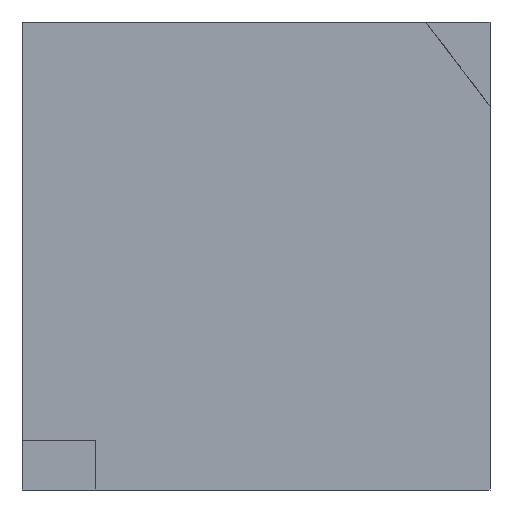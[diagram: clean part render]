
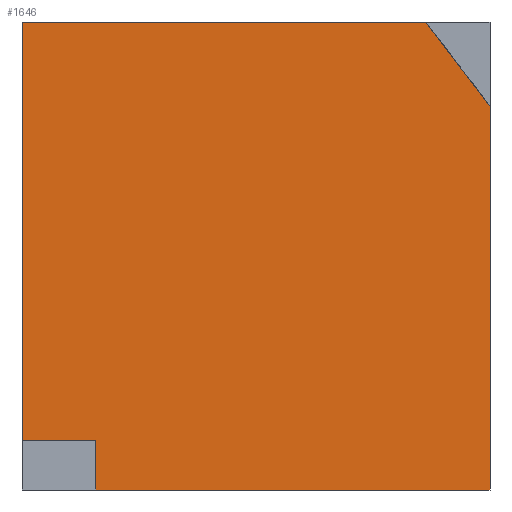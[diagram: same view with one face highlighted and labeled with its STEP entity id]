
A CAD part, front view. The second image highlights one B-rep face of the part: STEP entity #1646.
In plain terms, the highlighted planar face has unit normal (0, -1, 0).
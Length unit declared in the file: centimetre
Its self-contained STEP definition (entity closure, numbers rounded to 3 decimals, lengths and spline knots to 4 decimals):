
#39 = FACE_OUTER_BOUND ( 'NONE', #438, .T. ) ;
#59 = VERTEX_POINT ( 'NONE', #964 ) ;
#67 = DIRECTION ( 'NONE',  ( 0.606, 0., -0.795 ) ) ;
#114 = CARTESIAN_POINT ( 'NONE',  ( 0., 0., 0. ) ) ;
#126 = CARTESIAN_POINT ( 'NONE',  ( 0., 0., 1000. ) ) ;
#137 = CARTESIAN_POINT ( 'NONE',  ( 0., 0., 1000. ) ) ;
#153 = DIRECTION ( 'NONE',  ( -1., 0., 0. ) ) ;
#199 = EDGE_CURVE ( 'NONE', #59, #552, #1205, .T. ) ;
#314 = EDGE_CURVE ( 'NONE', #59, #1597, #1490, .T. ) ;
#333 = AXIS2_PLACEMENT_3D ( 'NONE', #137, #685, #963 ) ;
#336 = CARTESIAN_POINT ( 'NONE',  ( 862.9235, 0., 1000. ) ) ;
#365 = DIRECTION ( 'NONE',  ( 0., 0., -1. ) ) ;
#405 = EDGE_CURVE ( 'NONE', #1597, #519, #1145, .T. ) ;
#411 = DIRECTION ( 'NONE',  ( 1., 0., 0. ) ) ;
#438 = EDGE_LOOP ( 'NONE', ( #1385, #1504, #1153, #1727, #1019, #826, #1649 ) ) ;
#519 = VERTEX_POINT ( 'NONE', #686 ) ;
#552 = VERTEX_POINT ( 'NONE', #1521 ) ;
#576 = VECTOR ( 'NONE', #67, 100. ) ;
#627 = CARTESIAN_POINT ( 'NONE',  ( 1000., 0., 1000. ) ) ;
#644 = DIRECTION ( 'NONE',  ( 0., 0., 1. ) ) ;
#653 = DIRECTION ( 'NONE',  ( 0., 0., -1. ) ) ;
#657 = DIRECTION ( 'NONE',  ( 1., 0., 0. ) ) ;
#685 = DIRECTION ( 'NONE',  ( 0., 1., 0. ) ) ;
#686 = CARTESIAN_POINT ( 'NONE',  ( 0., 0., 106.0549 ) ) ;
#698 = LINE ( 'NONE', #126, #711 ) ;
#711 = VECTOR ( 'NONE', #411, 100. ) ;
#762 = CARTESIAN_POINT ( 'NONE',  ( 1000., 0., 820.0533 ) ) ;
#793 = VECTOR ( 'NONE', #653, 100. ) ;
#815 = EDGE_CURVE ( 'NONE', #1741, #944, #1698, .T. ) ;
#826 = ORIENTED_EDGE ( 'NONE', *, *, #815, .F. ) ;
#941 = VECTOR ( 'NONE', #644, 100. ) ;
#944 = VERTEX_POINT ( 'NONE', #762 ) ;
#963 = DIRECTION ( 'NONE',  ( 0., 0., 1. ) ) ;
#964 = CARTESIAN_POINT ( 'NONE',  ( 157.253, 0., 0. ) ) ;
#1019 = ORIENTED_EDGE ( 'NONE', *, *, #1420, .F. ) ;
#1046 = LINE ( 'NONE', #1590, #1138 ) ;
#1110 = CARTESIAN_POINT ( 'NONE',  ( 157.253, 0., 106.0549 ) ) ;
#1138 = VECTOR ( 'NONE', #365, 100. ) ;
#1145 = LINE ( 'NONE', #1234, #1229 ) ;
#1153 = ORIENTED_EDGE ( 'NONE', *, *, #314, .F. ) ;
#1156 = CARTESIAN_POINT ( 'NONE',  ( 0., 0., 1000. ) ) ;
#1205 = LINE ( 'NONE', #114, #1589 ) ;
#1229 = VECTOR ( 'NONE', #153, 100. ) ;
#1234 = CARTESIAN_POINT ( 'NONE',  ( 0., 0., 106.0549 ) ) ;
#1291 = CARTESIAN_POINT ( 'NONE',  ( 1000., 0., 820.0533 ) ) ;
#1340 = CARTESIAN_POINT ( 'NONE',  ( 157.253, 0., 0. ) ) ;
#1356 = PLANE ( 'NONE',  #333 ) ;
#1385 = ORIENTED_EDGE ( 'NONE', *, *, #1482, .T. ) ;
#1407 = LINE ( 'NONE', #627, #793 ) ;
#1420 = EDGE_CURVE ( 'NONE', #944, #552, #1407, .T. ) ;
#1482 = EDGE_CURVE ( 'NONE', #1748, #519, #1046, .T. ) ;
#1490 = LINE ( 'NONE', #1340, #941 ) ;
#1504 = ORIENTED_EDGE ( 'NONE', *, *, #405, .F. ) ;
#1521 = CARTESIAN_POINT ( 'NONE',  ( 1000., 0., 0. ) ) ;
#1543 = EDGE_CURVE ( 'NONE', #1748, #1741, #698, .T. ) ;
#1589 = VECTOR ( 'NONE', #657, 100. ) ;
#1590 = CARTESIAN_POINT ( 'NONE',  ( 0., 0., 1000. ) ) ;
#1597 = VERTEX_POINT ( 'NONE', #1110 ) ;
#1646 = ADVANCED_FACE ( 'NONE', ( #39 ), #1356, .F. ) ;
#1649 = ORIENTED_EDGE ( 'NONE', *, *, #1543, .F. ) ;
#1698 = LINE ( 'NONE', #1291, #576 ) ;
#1727 = ORIENTED_EDGE ( 'NONE', *, *, #199, .T. ) ;
#1741 = VERTEX_POINT ( 'NONE', #336 ) ;
#1748 = VERTEX_POINT ( 'NONE', #1156 ) ;
